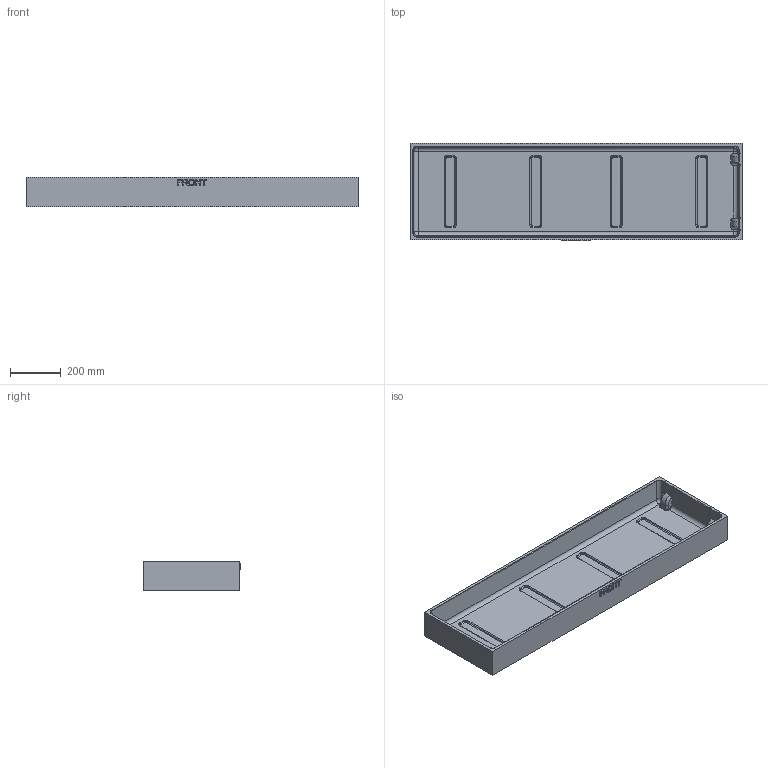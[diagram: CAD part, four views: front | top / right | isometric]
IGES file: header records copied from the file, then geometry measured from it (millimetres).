
Start section: Comment
Global section: file name: 3300-base_internal_tub.igs; native system:  By UGS Corp.; preprocessor: XPlus GENERIC/IGES 3.0; author: Author; organization: Title; date: 20100517.092720; units: millimetre
Bounding box: 1308.1 x 384.18 x 114.3 mm (x, y, z)
Surface area: 1693645.2 mm2 (no closed solid volume)
Topology: 0 solids, 0 shells, 341 faces, 1884 edges, 1872 vertices
Faces by surface type: bspline 341
